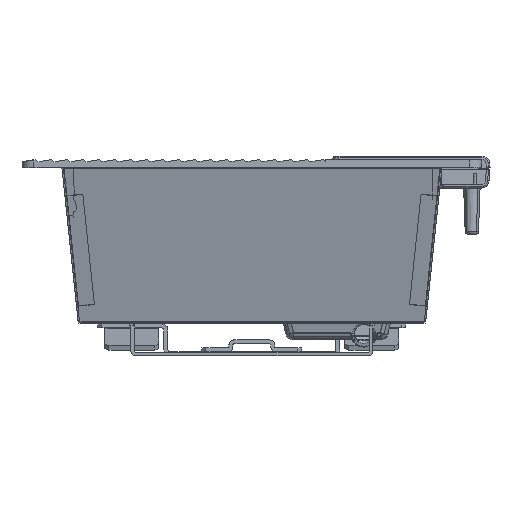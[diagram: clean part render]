
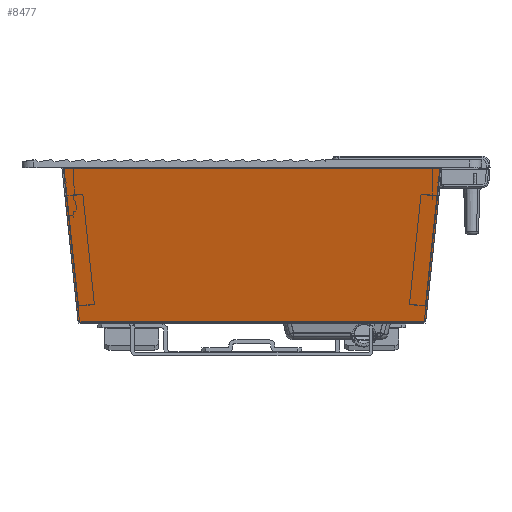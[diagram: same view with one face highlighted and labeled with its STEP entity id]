
A CAD part, front view. The second image highlights one B-rep face of the part: STEP entity #8477.
In plain terms, the highlighted planar face has unit normal (0, -0.974, -0.225).
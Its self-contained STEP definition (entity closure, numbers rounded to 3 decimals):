
#608 = VERTEX_POINT('',#609);
#609 = CARTESIAN_POINT('',(85.3,-502.24,-76.925));
#724 = VERTEX_POINT('',#725);
#725 = CARTESIAN_POINT('',(-85.3,-502.24,-76.925));
#8466 = EDGE_CURVE('',#608,#724,#8467,.T.);
#8467 = LINE('',#8468,#8469);
#8468 = CARTESIAN_POINT('',(85.3,-502.24,-76.925));
#8469 = VECTOR('',#8470,1.);
#8470 = DIRECTION('',(-1.,0.,0.));
#8477 = ADVANCED_FACE('',(#8478),#8569,.T.);
#8478 = FACE_BOUND('',#8479,.F.);
#8479 = EDGE_LOOP('',(#8480,#8490,#8498,#8506,#8514,#8522,#8530,#8539,
    #8545,#8546,#8554,#8563));
#8480 = ORIENTED_EDGE('',*,*,#8481,.T.);
#8481 = EDGE_CURVE('',#8482,#8484,#8486,.T.);
#8482 = VERTEX_POINT('',#8483);
#8483 = CARTESIAN_POINT('',(-93.541,-516.794,
    -13.885));
#8484 = VERTEX_POINT('',#8485);
#8485 = CARTESIAN_POINT('',(-92.844,-516.81,
    -13.815));
#8486 = LINE('',#8487,#8488);
#8487 = CARTESIAN_POINT('',(-93.541,-516.794,
    -13.885));
#8488 = VECTOR('',#8489,1.);
#8489 = DIRECTION('',(0.995,-0.023,
    0.099));
#8490 = ORIENTED_EDGE('',*,*,#8491,.T.);
#8491 = EDGE_CURVE('',#8484,#8492,#8494,.T.);
#8492 = VERTEX_POINT('',#8493);
#8493 = CARTESIAN_POINT('',(-94.296,-520.,0.));
#8494 = LINE('',#8495,#8496);
#8495 = CARTESIAN_POINT('',(-92.844,-516.81,
    -13.815));
#8496 = VECTOR('',#8497,1.);
#8497 = DIRECTION('',(-0.102,-0.224,0.969));
#8498 = ORIENTED_EDGE('',*,*,#8499,.T.);
#8499 = EDGE_CURVE('',#8492,#8500,#8502,.T.);
#8500 = VERTEX_POINT('',#8501);
#8501 = CARTESIAN_POINT('',(94.296,-520.,0.));
#8502 = LINE('',#8503,#8504);
#8503 = CARTESIAN_POINT('',(-94.296,-520.,0.));
#8504 = VECTOR('',#8505,1.);
#8505 = DIRECTION('',(1.,0.,0.));
#8506 = ORIENTED_EDGE('',*,*,#8507,.F.);
#8507 = EDGE_CURVE('',#8508,#8500,#8510,.T.);
#8508 = VERTEX_POINT('',#8509);
#8509 = CARTESIAN_POINT('',(92.844,-516.81,
    -13.815));
#8510 = LINE('',#8511,#8512);
#8511 = CARTESIAN_POINT('',(92.844,-516.81,
    -13.815));
#8512 = VECTOR('',#8513,1.);
#8513 = DIRECTION('',(0.102,-0.224,0.969));
#8514 = ORIENTED_EDGE('',*,*,#8515,.F.);
#8515 = EDGE_CURVE('',#8516,#8508,#8518,.T.);
#8516 = VERTEX_POINT('',#8517);
#8517 = CARTESIAN_POINT('',(93.541,-516.794,
    -13.885));
#8518 = LINE('',#8519,#8520);
#8519 = CARTESIAN_POINT('',(93.541,-516.794,
    -13.885));
#8520 = VECTOR('',#8521,1.);
#8521 = DIRECTION('',(-0.995,-0.023,
    0.099));
#8522 = ORIENTED_EDGE('',*,*,#8523,.F.);
#8523 = EDGE_CURVE('',#8524,#8516,#8526,.T.);
#8524 = VERTEX_POINT('',#8525);
#8525 = CARTESIAN_POINT('',(87.007,-502.443,
    -76.05));
#8526 = LINE('',#8527,#8528);
#8527 = CARTESIAN_POINT('',(87.007,-502.443,
    -76.05));
#8528 = VECTOR('',#8529,1.);
#8529 = DIRECTION('',(0.102,-0.224,0.969));
#8530 = ORIENTED_EDGE('',*,*,#8531,.F.);
#8531 = EDGE_CURVE('',#8532,#8524,#8534,.T.);
#8532 = VERTEX_POINT('',#8533);
#8533 = CARTESIAN_POINT('',(86.012,-502.24,
    -76.925));
#8534 = CIRCLE('',#8535,1.);
#8535 = AXIS2_PLACEMENT_3D('',#8536,#8537,#8538);
#8536 = CARTESIAN_POINT('',(86.012,-502.465,
    -75.951));
#8537 = DIRECTION('',(0.,-0.974,-0.225));
#8538 = DIRECTION('',(0.,0.225,-0.974));
#8539 = ORIENTED_EDGE('',*,*,#8540,.T.);
#8540 = EDGE_CURVE('',#8532,#608,#8541,.T.);
#8541 = LINE('',#8542,#8543);
#8542 = CARTESIAN_POINT('',(86.012,-502.24,
    -76.925));
#8543 = VECTOR('',#8544,1.);
#8544 = DIRECTION('',(-1.,0.,0.));
#8545 = ORIENTED_EDGE('',*,*,#8466,.T.);
#8546 = ORIENTED_EDGE('',*,*,#8547,.F.);
#8547 = EDGE_CURVE('',#8548,#724,#8550,.T.);
#8548 = VERTEX_POINT('',#8549);
#8549 = CARTESIAN_POINT('',(-86.012,-502.24,
    -76.925));
#8550 = LINE('',#8551,#8552);
#8551 = CARTESIAN_POINT('',(-86.012,-502.24,
    -76.925));
#8552 = VECTOR('',#8553,1.);
#8553 = DIRECTION('',(1.,0.,0.));
#8554 = ORIENTED_EDGE('',*,*,#8555,.F.);
#8555 = EDGE_CURVE('',#8556,#8548,#8558,.T.);
#8556 = VERTEX_POINT('',#8557);
#8557 = CARTESIAN_POINT('',(-87.007,-502.443,
    -76.05));
#8558 = CIRCLE('',#8559,1.);
#8559 = AXIS2_PLACEMENT_3D('',#8560,#8561,#8562);
#8560 = CARTESIAN_POINT('',(-86.012,-502.465,
    -75.951));
#8561 = DIRECTION('',(0.,-0.974,
    -0.225));
#8562 = DIRECTION('',(-0.995,0.023,
    -0.099));
#8563 = ORIENTED_EDGE('',*,*,#8564,.T.);
#8564 = EDGE_CURVE('',#8556,#8482,#8565,.T.);
#8565 = LINE('',#8566,#8567);
#8566 = CARTESIAN_POINT('',(-87.007,-502.443,
    -76.05));
#8567 = VECTOR('',#8568,1.);
#8568 = DIRECTION('',(-0.102,-0.224,0.969));
#8569 = PLANE('',#8570);
#8570 = AXIS2_PLACEMENT_3D('',#8571,#8572,#8573);
#8571 = CARTESIAN_POINT('',(-95.,-520.,0.));
#8572 = DIRECTION('',(0.,-0.974,-0.225));
#8573 = DIRECTION('',(0.,0.225,-0.974));
